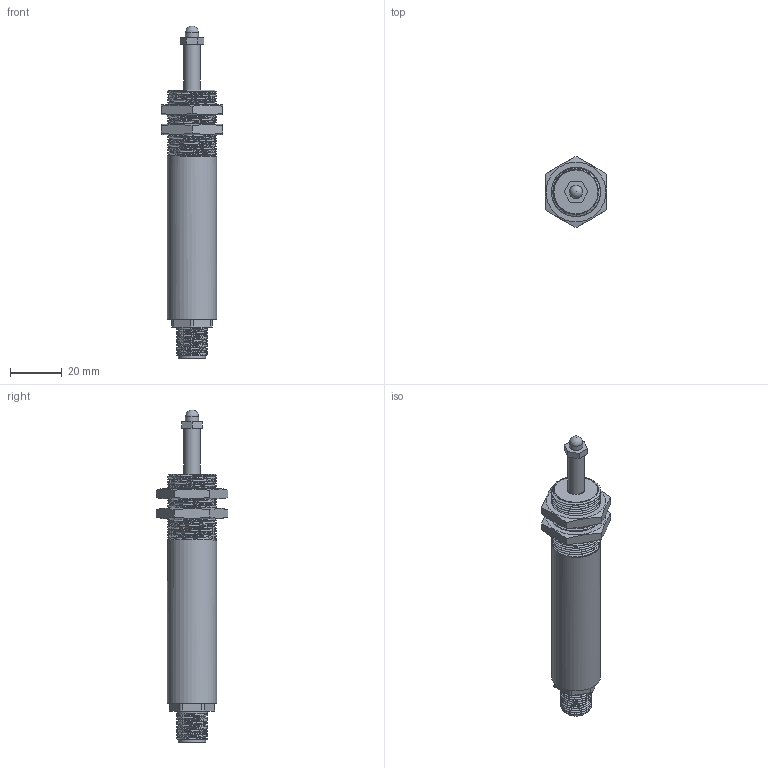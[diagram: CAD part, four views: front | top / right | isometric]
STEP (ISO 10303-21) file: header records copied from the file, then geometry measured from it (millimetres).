
FILE_DESCRIPTION(/* description */ (''),/* implementation_level */ '2;1');
FILE_NAME(/* name */ 'ILPS-18S-013-A-01-YY-Z.stp',/* time_stamp */ '2026-01-27T15:27:36-05:00',/* author */ ('wingm'),/* organization */ (''),/* preprocessor_version */ 'ST-DEVELOPER v20.1',/* originating_system */ 'Autodesk Inventor 2026',/* authorisation */ '');
FILE_SCHEMA (('AUTOMOTIVE_DESIGN { 1 0 10303 214 3 1 1 }'));
Length unit declared in the file: inch
Products named in the file (9): Assembly1; Body; End Cap; Shaft; Lining; Hex Nut; End Cap_1; M12 Connector; #11136
Assembly tree (9 placements, depth 2):
  Assembly1
    Body
    End Cap
    Shaft
    Lining
    Hex Nut  x2
    End Cap_1
    M12 Connector
    #11136
Bounding box: 24 x 27.71 x 128.78 mm (x, y, z)
Volume: 9617 mm3; surface area: 19230.8 mm2
Topology: 18 solids, 18 shells, 167 faces, 383 edges, 252 vertices
Faces by surface type: cylinder 73, plane 64, cone 12, bspline 12, sphere 6
Full cylindrical faces by diameter (mm): 1.05 x5, 1.905 x1, 2.845 x3, 5.08 x1, 6.35 x2, 6.858 x2, 8 x2, 10.6 x2, 12 x10, 13.185 x1, 17.069 x3, 19.05 x28
Entity records: 11215 total; most frequent: CARTESIAN_POINT 7633, ORIENTED_EDGE 660, DIRECTION 618, EDGE_CURVE 330, AXIS2_PLACEMENT_3D 245, VERTEX_POINT 222, EDGE_LOOP 166, FACE_OUTER_BOUND 148
